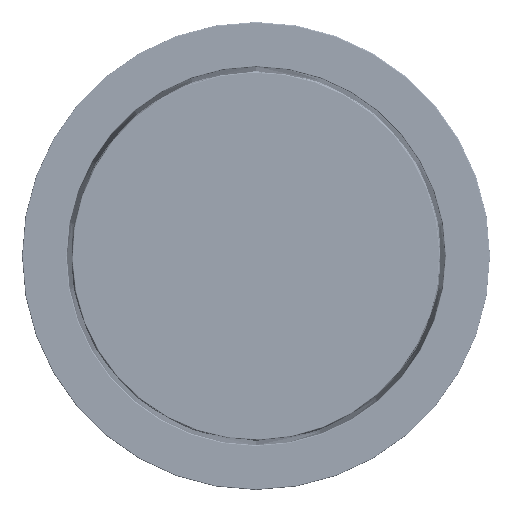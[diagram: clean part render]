
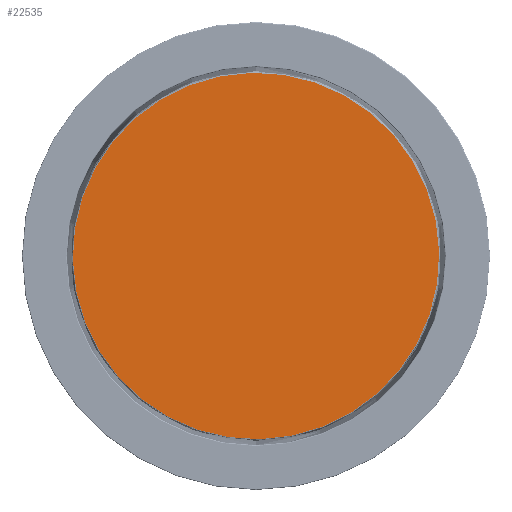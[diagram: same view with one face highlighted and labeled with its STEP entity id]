
A CAD part, front view. The second image highlights one B-rep face of the part: STEP entity #22535.
In plain terms, the highlighted planar face has unit normal (0, -1, 0).
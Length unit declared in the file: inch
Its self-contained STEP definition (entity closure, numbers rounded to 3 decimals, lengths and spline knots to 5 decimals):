
#6606 = DIRECTION ( 'NONE',  ( 0., 0., 1. ) ) ;
#9370 = AXIS2_PLACEMENT_3D ( 'NONE', #111265, #149013, #33267 ) ;
#13601 = CARTESIAN_POINT ( 'NONE',  ( 0., 0., 0. ) ) ;
#21711 = DIRECTION ( 'NONE',  ( 0., -1., 0. ) ) ;
#22535 = ADVANCED_FACE ( 'NONE', ( #72641 ), #136440, .F. ) ;
#33267 = DIRECTION ( 'NONE',  ( 0., 0., 1. ) ) ;
#40548 = EDGE_LOOP ( 'NONE', ( #89888, #158755 ) ) ;
#72641 = FACE_OUTER_BOUND ( 'NONE', #40548, .T. ) ;
#76506 = DIRECTION ( 'NONE',  ( 0., -1., 0. ) ) ;
#88236 = VERTEX_POINT ( 'NONE', #90178 ) ;
#89888 = ORIENTED_EDGE ( 'NONE', *, *, #102054, .T. ) ;
#90178 = CARTESIAN_POINT ( 'NONE',  ( 0., 0., -1.44854 ) ) ;
#91607 = DIRECTION ( 'NONE',  ( 0., 0., 1. ) ) ;
#95225 = AXIS2_PLACEMENT_3D ( 'NONE', #159346, #21711, #6606 ) ;
#102054 = EDGE_CURVE ( 'NONE', #118696, #88236, #132644, .T. ) ;
#111265 = CARTESIAN_POINT ( 'NONE',  ( 0., 0., 0. ) ) ;
#118696 = VERTEX_POINT ( 'NONE', #147602 ) ;
#130120 = CIRCLE ( 'NONE', #95225, 1.44854 ) ;
#132644 = CIRCLE ( 'NONE', #138001, 1.44854 ) ;
#135014 = EDGE_CURVE ( 'NONE', #88236, #118696, #130120, .T. ) ;
#136440 = PLANE ( 'NONE',  #9370 ) ;
#138001 = AXIS2_PLACEMENT_3D ( 'NONE', #13601, #76506, #91607 ) ;
#147602 = CARTESIAN_POINT ( 'NONE',  ( 0., 0., 1.44854 ) ) ;
#149013 = DIRECTION ( 'NONE',  ( 0., 1., 0. ) ) ;
#158755 = ORIENTED_EDGE ( 'NONE', *, *, #135014, .T. ) ;
#159346 = CARTESIAN_POINT ( 'NONE',  ( 0., 0., 0. ) ) ;
